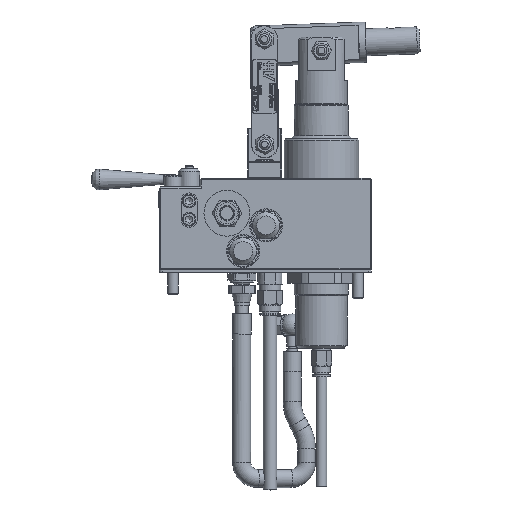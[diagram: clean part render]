
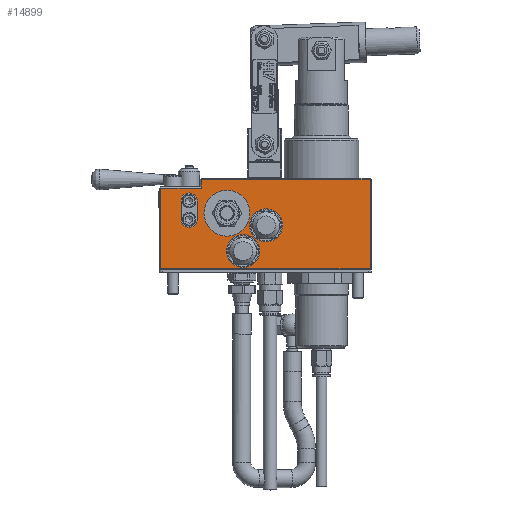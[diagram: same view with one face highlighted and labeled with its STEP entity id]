
A CAD part, left-side view. The second image highlights one B-rep face of the part: STEP entity #14899.
In plain terms, the highlighted planar face has unit normal (-1, 0, 0).
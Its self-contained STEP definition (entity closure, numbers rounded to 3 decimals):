
#13977=CARTESIAN_POINT('',(-34.,90.,-506.349));
#13978=VERTEX_POINT('',#13977);
#13979=CARTESIAN_POINT('',(-34.,107.,-506.349));
#13980=DIRECTION('',(1.0,0.0,0.0));
#13981=DIRECTION('',(0.0,-1.0,0.0));
#13982=AXIS2_PLACEMENT_3D('',#13979,#13980,#13981);
#13983=CIRCLE('',#13982,17.0);
#13984=EDGE_CURVE('',#13978,#13978,#13983,.T.);
#14065=CARTESIAN_POINT('',(-34.,65.75,-515.349));
#14066=VERTEX_POINT('',#14065);
#14067=CARTESIAN_POINT('',(-34.,78.,-515.349));
#14068=DIRECTION('',(1.0,0.0,0.0));
#14069=DIRECTION('',(0.0,-1.0,0.0));
#14070=AXIS2_PLACEMENT_3D('',#14067,#14068,#14069);
#14071=CIRCLE('',#14070,12.25);
#14072=EDGE_CURVE('',#14066,#14066,#14071,.T.);
#14332=CARTESIAN_POINT('',(-34.,82.75,-534.349));
#14333=VERTEX_POINT('',#14332);
#14334=CARTESIAN_POINT('',(-34.,95.,-534.349));
#14335=DIRECTION('',(1.0,0.0,0.0));
#14336=DIRECTION('',(0.0,-1.0,0.0));
#14337=AXIS2_PLACEMENT_3D('',#14334,#14335,#14336);
#14338=CIRCLE('',#14337,12.25);
#14339=EDGE_CURVE('',#14333,#14333,#14338,.T.);
#14799=CARTESIAN_POINT('',(-34.,0.,-548.349));
#14800=DIRECTION('',(-1.0,0.0,0.0));
#14801=DIRECTION('',(0.0,0.0,-1.0));
#14802=AXIS2_PLACEMENT_3D('',#14799,#14800,#14801);
#14803=PLANE('',#14802);
#14804=CARTESIAN_POINT('',(-34.,1.,-481.349));
#14805=VERTEX_POINT('',#14804);
#14806=CARTESIAN_POINT('',(-34.,1.,-547.349));
#14807=VERTEX_POINT('',#14806);
#14808=CARTESIAN_POINT('',(-34.,1.,-481.349));
#14809=DIRECTION('',(0.0,0.0,-1.0));
#14810=VECTOR('',#14809,66.0);
#14811=LINE('',#14808,#14810);
#14812=EDGE_CURVE('',#14805,#14807,#14811,.T.);
#14813=ORIENTED_EDGE('',*,*,#14812,.F.);
#14814=CARTESIAN_POINT('',(-34.,126.,-481.349));
#14815=VERTEX_POINT('',#14814);
#14816=CARTESIAN_POINT('',(-34.,126.,-481.349));
#14817=DIRECTION('',(0.0,-1.0,0.0));
#14818=VECTOR('',#14817,125.0);
#14819=LINE('',#14816,#14818);
#14820=EDGE_CURVE('',#14815,#14805,#14819,.T.);
#14821=ORIENTED_EDGE('',*,*,#14820,.F.);
#14822=CARTESIAN_POINT('',(-34.,126.,-487.849));
#14823=VERTEX_POINT('',#14822);
#14824=CARTESIAN_POINT('',(-34.,126.,-487.849));
#14825=DIRECTION('',(0.0,0.0,1.0));
#14826=VECTOR('',#14825,6.5);
#14827=LINE('',#14824,#14826);
#14828=EDGE_CURVE('',#14823,#14815,#14827,.T.);
#14829=ORIENTED_EDGE('',*,*,#14828,.F.);
#14830=CARTESIAN_POINT('',(-34.,156.,-487.849));
#14831=VERTEX_POINT('',#14830);
#14832=CARTESIAN_POINT('',(-34.,156.,-487.849));
#14833=DIRECTION('',(0.0,-1.0,0.0));
#14834=VECTOR('',#14833,30.0);
#14835=LINE('',#14832,#14834);
#14836=EDGE_CURVE('',#14831,#14823,#14835,.T.);
#14837=ORIENTED_EDGE('',*,*,#14836,.F.);
#14838=CARTESIAN_POINT('',(-34.,156.,-547.349));
#14839=VERTEX_POINT('',#14838);
#14840=CARTESIAN_POINT('',(-34.,156.,-547.349));
#14841=DIRECTION('',(0.0,0.0,1.0));
#14842=VECTOR('',#14841,59.5);
#14843=LINE('',#14840,#14842);
#14844=EDGE_CURVE('',#14839,#14831,#14843,.T.);
#14845=ORIENTED_EDGE('',*,*,#14844,.F.);
#14846=CARTESIAN_POINT('',(-34.,1.,-547.349));
#14847=DIRECTION('',(0.0,1.0,0.0));
#14848=VECTOR('',#14847,155.0);
#14849=LINE('',#14846,#14848);
#14850=EDGE_CURVE('',#14807,#14839,#14849,.T.);
#14851=ORIENTED_EDGE('',*,*,#14850,.F.);
#14852=EDGE_LOOP('',(#14813,#14821,#14829,#14837,#14845,#14851));
#14853=FACE_OUTER_BOUND('',#14852,.T.);
#14854=CARTESIAN_POINT('',(-34.,141.,-497.349));
#14855=VERTEX_POINT('',#14854);
#14856=CARTESIAN_POINT('',(-34.,129.,-497.349));
#14857=VERTEX_POINT('',#14856);
#14858=CARTESIAN_POINT('',(-34.,135.,-497.349));
#14859=DIRECTION('',(1.0,0.0,0.0));
#14860=DIRECTION('',(0.0,-1.0,0.0));
#14861=AXIS2_PLACEMENT_3D('',#14858,#14859,#14860);
#14862=CIRCLE('',#14861,6.);
#14863=EDGE_CURVE('',#14855,#14857,#14862,.T.);
#14864=ORIENTED_EDGE('',*,*,#14863,.T.);
#14865=CARTESIAN_POINT('',(-34.,129.,-510.849));
#14866=VERTEX_POINT('',#14865);
#14867=CARTESIAN_POINT('',(-34.,129.,-497.349));
#14868=DIRECTION('',(0.0,0.0,-1.0));
#14869=VECTOR('',#14868,13.5);
#14870=LINE('',#14867,#14869);
#14871=EDGE_CURVE('',#14857,#14866,#14870,.T.);
#14872=ORIENTED_EDGE('',*,*,#14871,.T.);
#14873=CARTESIAN_POINT('',(-34.,141.,-510.849));
#14874=VERTEX_POINT('',#14873);
#14875=CARTESIAN_POINT('',(-34.,135.,-510.849));
#14876=DIRECTION('',(1.0,0.0,0.0));
#14877=DIRECTION('',(0.0,-1.0,0.0));
#14878=AXIS2_PLACEMENT_3D('',#14875,#14876,#14877);
#14879=CIRCLE('',#14878,6.);
#14880=EDGE_CURVE('',#14866,#14874,#14879,.T.);
#14881=ORIENTED_EDGE('',*,*,#14880,.T.);
#14882=CARTESIAN_POINT('',(-34.,141.,-510.849));
#14883=DIRECTION('',(0.0,0.0,1.0));
#14884=VECTOR('',#14883,13.5);
#14885=LINE('',#14882,#14884);
#14886=EDGE_CURVE('',#14874,#14855,#14885,.T.);
#14887=ORIENTED_EDGE('',*,*,#14886,.T.);
#14888=EDGE_LOOP('',(#14864,#14872,#14881,#14887));
#14889=FACE_BOUND('',#14888,.T.);
#14890=ORIENTED_EDGE('',*,*,#13984,.T.);
#14891=EDGE_LOOP('',(#14890));
#14892=FACE_BOUND('',#14891,.T.);
#14893=ORIENTED_EDGE('',*,*,#14072,.T.);
#14894=EDGE_LOOP('',(#14893));
#14895=FACE_BOUND('',#14894,.T.);
#14896=ORIENTED_EDGE('',*,*,#14339,.T.);
#14897=EDGE_LOOP('',(#14896));
#14898=FACE_BOUND('',#14897,.T.);
#14899=ADVANCED_FACE('',(#14853,#14889,#14892,#14895,#14898),#14803,.T.);
